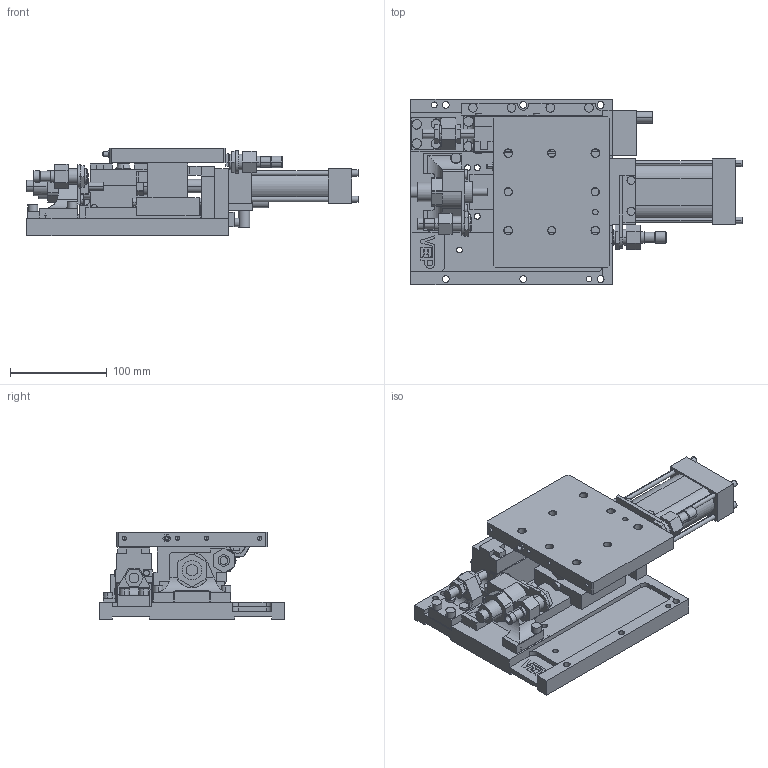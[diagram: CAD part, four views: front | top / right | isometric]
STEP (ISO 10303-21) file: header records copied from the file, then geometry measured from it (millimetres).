
FILE_DESCRIPTION (( 'STEP AP214' ), '1' );
FILE_NAME ('slg40_50_XX_V_X_H.STEP', '2021-02-04T11:49:03', ( '' ), ( '' ), 'SwSTEP 2.0', 'SolidWorks 2021', '' );
FILE_SCHEMA (( 'AUTOMOTIVE_DESIGN' ));
Length unit declared in the file: millimetre
Products named in the file (9): otturatore_dx_slg40; Sensore_slg40; deceleratore_slg40; base_slg40_50_V; dado_deceleratore_slg40; staffa_ferma_otturatore_slg40; slg40_50_XX_V_X_H; piastra_superiore_slg40; staffa_deceleratore_slg40
Assembly tree (8 placements, depth 2):
  slg40_50_XX_V_X_H
    base_slg40_50_V
    piastra_superiore_slg40
    staffa_deceleratore_slg40
    deceleratore_slg40
    staffa_ferma_otturatore_slg40
    otturatore_dx_slg40
    dado_deceleratore_slg40
    Sensore_slg40
Bounding box: 343.1 x 192 x 90 mm (x, y, z)
Volume: 1708826.3 mm3; surface area: 320424.1 mm2
Topology: 13 solids, 14 shells, 938 faces, 2370 edges, 1494 vertices
Faces by surface type: plane 493, cylinder 321, cone 116, torus 8
Entity records: 31261 total; most frequent: CARTESIAN_POINT 5265, DIRECTION 4950, ORIENTED_EDGE 4656, EDGE_CURVE 2328, AXIS2_PLACEMENT_3D 1695, VECTOR 1560, LINE 1560, VERTEX_POINT 1494
